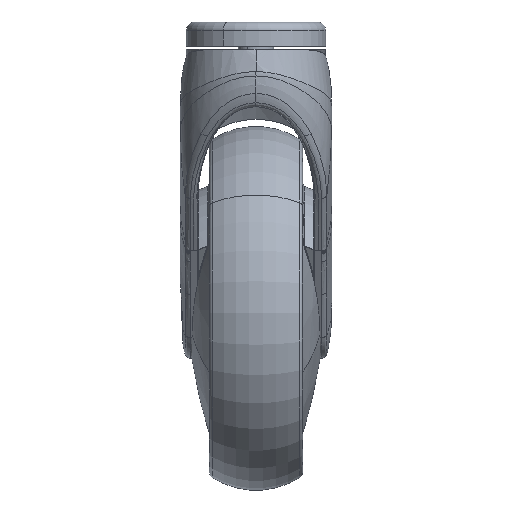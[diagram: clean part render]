
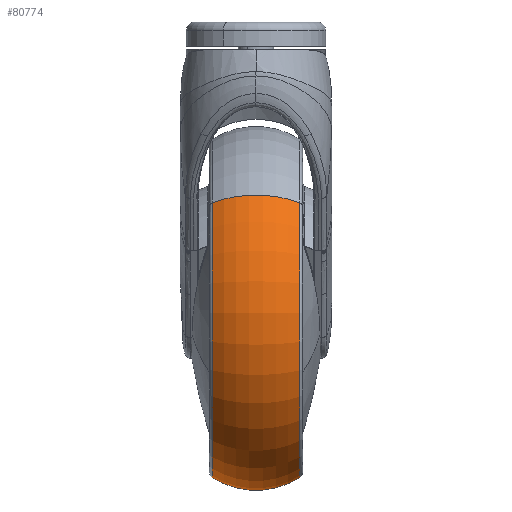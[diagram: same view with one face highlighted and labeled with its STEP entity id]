
A CAD part, left-side view. The second image highlights one B-rep face of the part: STEP entity #80774.
In plain terms, the highlighted toroidal (fillet/blend) face has major radius 34.5 mm and minor radius 28 mm.
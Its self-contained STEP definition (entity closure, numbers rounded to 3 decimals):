
#61416 = CARTESIAN_POINT ( 'NONE',  ( -45.445, 15.077, 36.189 ) ) ;
#61567 = AXIS2_PLACEMENT_3D ( 'NONE', #61716, #61714, #61712 ) ;
#61569 = TOROIDAL_SURFACE ( 'NONE', #61567, 34.5, 28. ) ;
#61581 = FACE_OUTER_BOUND ( 'NONE', #80325, .T. ) ;
#61710 = CARTESIAN_POINT ( 'NONE',  ( -45.445, -15.077, 36.189 ) ) ;
#61712 = DIRECTION ( 'NONE',  ( 0.782, 0., -0.623 ) ) ;
#61714 = DIRECTION ( 'NONE',  ( 0., 1., 0. ) ) ;
#61716 = CARTESIAN_POINT ( 'NONE',  ( 0., 0., 0. ) ) ;
#61826 = CARTESIAN_POINT ( 'NONE',  ( 45.445, -15.077, -36.189 ) ) ;
#62577 = DIRECTION ( 'NONE',  ( 0.782, 0., -0.623 ) ) ;
#62579 = DIRECTION ( 'NONE',  ( 0.623, 0., 0.782 ) ) ;
#62580 = CARTESIAN_POINT ( 'NONE',  ( 26.988, 0., -21.491 ) ) ;
#62581 = AXIS2_PLACEMENT_3D ( 'NONE', #62580, #62579, #62577 ) ;
#62582 = CIRCLE ( 'NONE', #62581, 28. ) ;
#62583 = CARTESIAN_POINT ( 'NONE',  ( 45.445, 15.077, -36.189 ) ) ;
#62695 = DIRECTION ( 'NONE',  ( 0.782, 0., -0.623 ) ) ;
#62697 = DIRECTION ( 'NONE',  ( 0., 1., 0. ) ) ;
#62698 = CARTESIAN_POINT ( 'NONE',  ( 0., 15.077, 0. ) ) ;
#62699 = AXIS2_PLACEMENT_3D ( 'NONE', #62698, #62697, #62695 ) ;
#62700 = CIRCLE ( 'NONE', #62699, 58.094 ) ;
#63093 = CIRCLE ( 'NONE', #63136, 28. ) ;
#63131 = DIRECTION ( 'NONE',  ( -0.782, 0., 0.623 ) ) ;
#63133 = DIRECTION ( 'NONE',  ( -0.623, 0., -0.782 ) ) ;
#63135 = CARTESIAN_POINT ( 'NONE',  ( -26.988, 0., 21.491 ) ) ;
#63136 = AXIS2_PLACEMENT_3D ( 'NONE', #63135, #63133, #63131 ) ;
#63260 = DIRECTION ( 'NONE',  ( 0.782, 0., -0.623 ) ) ;
#63261 = DIRECTION ( 'NONE',  ( 0., 1., 0. ) ) ;
#63262 = CARTESIAN_POINT ( 'NONE',  ( 0., -15.077, 0. ) ) ;
#63263 = AXIS2_PLACEMENT_3D ( 'NONE', #63262, #63261, #63260 ) ;
#63264 = CIRCLE ( 'NONE', #63263, 58.094 ) ;
#79325 = ORIENTED_EDGE ( 'NONE', *, *, #84446, .F. ) ;
#79338 = VERTEX_POINT ( 'NONE', #61416 ) ;
#80325 = EDGE_LOOP ( 'NONE', ( #85705, #85222, #79325, #83415 ) ) ;
#80774 = ADVANCED_FACE ( 'NONE', ( #61581 ), #61569, .T. ) ;
#81019 = VERTEX_POINT ( 'NONE', #61710 ) ;
#81149 = VERTEX_POINT ( 'NONE', #61826 ) ;
#83394 = VERTEX_POINT ( 'NONE', #62583 ) ;
#83410 = EDGE_CURVE ( 'NONE', #81149, #83394, #62582, .T. ) ;
#83415 = ORIENTED_EDGE ( 'NONE', *, *, #83410, .F. ) ;
#84446 = EDGE_CURVE ( 'NONE', #83394, #79338, #62700, .T. ) ;
#85090 = EDGE_CURVE ( 'NONE', #81019, #79338, #63093, .T. ) ;
#85222 = ORIENTED_EDGE ( 'NONE', *, *, #85090, .T. ) ;
#85473 = EDGE_CURVE ( 'NONE', #81149, #81019, #63264, .T. ) ;
#85705 = ORIENTED_EDGE ( 'NONE', *, *, #85473, .T. ) ;
